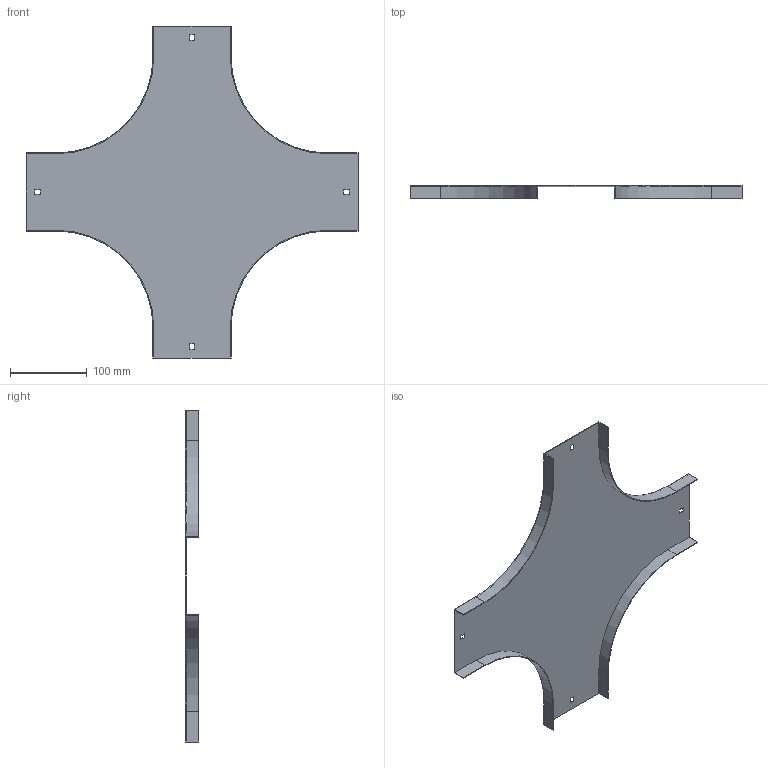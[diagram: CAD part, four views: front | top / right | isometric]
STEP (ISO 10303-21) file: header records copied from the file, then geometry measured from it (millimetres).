
FILE_DESCRIPTION (( 'STEP AP214' ), '1' );
FILE_NAME ('OC_100.step', '2025-07-16T09:10:29', ( '' ), ( '' ), 'SwSTEP 2.0', 'SolidWorks 2023', '' );
FILE_SCHEMA (( 'AUTOMOTIVE_DESIGN' ));
Length unit declared in the file: millimetre
Products named in the file (1): OC_100
Bounding box: 434 x 17 x 434 mm (x, y, z)
Volume: 109429.2 mm3; surface area: 220610.2 mm2
Topology: 1 solids, 1 shells, 50 faces, 144 edges, 96 vertices
Faces by surface type: plane 42, cylinder 8
Entity records: 1663 total; most frequent: CARTESIAN_POINT 291, ORIENTED_EDGE 288, DIRECTION 262, EDGE_CURVE 144, LINE 128, VECTOR 128, VERTEX_POINT 96, AXIS2_PLACEMENT_3D 67
